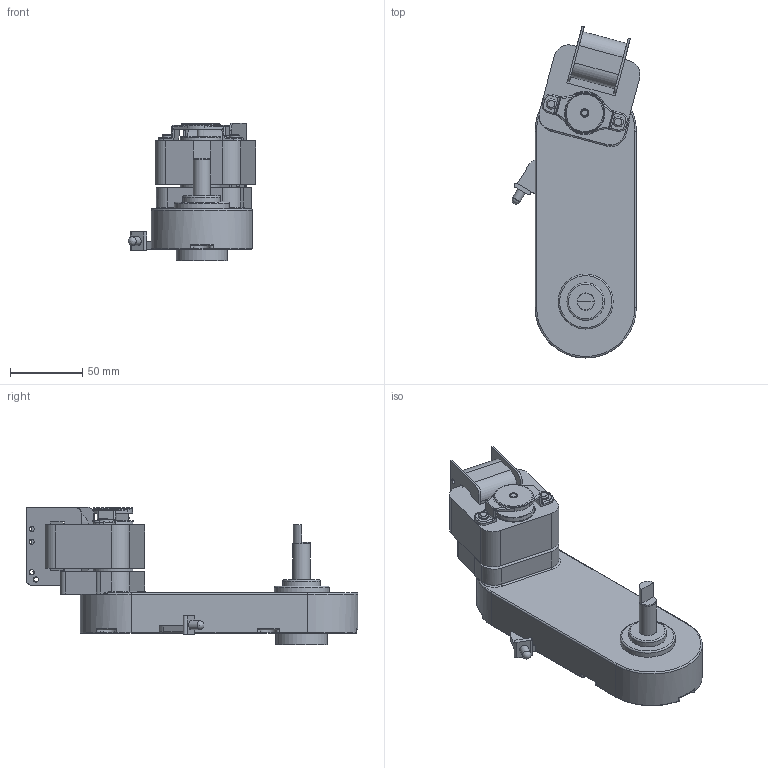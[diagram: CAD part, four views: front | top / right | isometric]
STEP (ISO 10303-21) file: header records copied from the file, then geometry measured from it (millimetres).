
FILE_DESCRIPTION((''),'2;1');
FILE_NAME('E:\2공장-도면\3D\표준형 3D(민규)\1공장 step\KGL SERIES.stp','2015-02-26T11:35:31',('AHN'),(''),'Autodesk Inventor 2012','Autodesk Inventor 2012','');
FILE_SCHEMA(('CONFIG_CONTROL_DESIGN'));
Length unit declared in the file: millimetre
Products named in the file (3): KGL; KGL기어박스; KAㅁ-61ㅁㅁ GENERAL TYPE SERIES
Assembly tree (2 placements, depth 2):
  KGL
    KGL기어박스
    KAㅁ-61ㅁㅁ GENERAL TYPE SERIES
Bounding box: 88.56 x 229.61 x 95.15 mm (x, y, z)
Volume: 496523.2 mm3; surface area: 84049.1 mm2
Topology: 5 solids, 5 shells, 383 faces, 929 edges, 560 vertices
Faces by surface type: cylinder 154, plane 137, torus 75, bspline 10, cone 6, sphere 1
Full cylindrical faces by diameter (mm): 3.6 x8, 4.2 x7, 5 x5, 6 x2, 7 x2, 11 x1, 11.7 x1, 12 x1, 26 x1, 29.4 x1, 30 x1, 35.4 x1, 38 x1
Entity records: 12384 total; most frequent: CARTESIAN_POINT 3342, DIRECTION 1967, ORIENTED_EDGE 1728, EDGE_CURVE 864, AXIS2_PLACEMENT_3D 782, VERTEX_POINT 546, EDGE_LOOP 468, VECTOR 403
